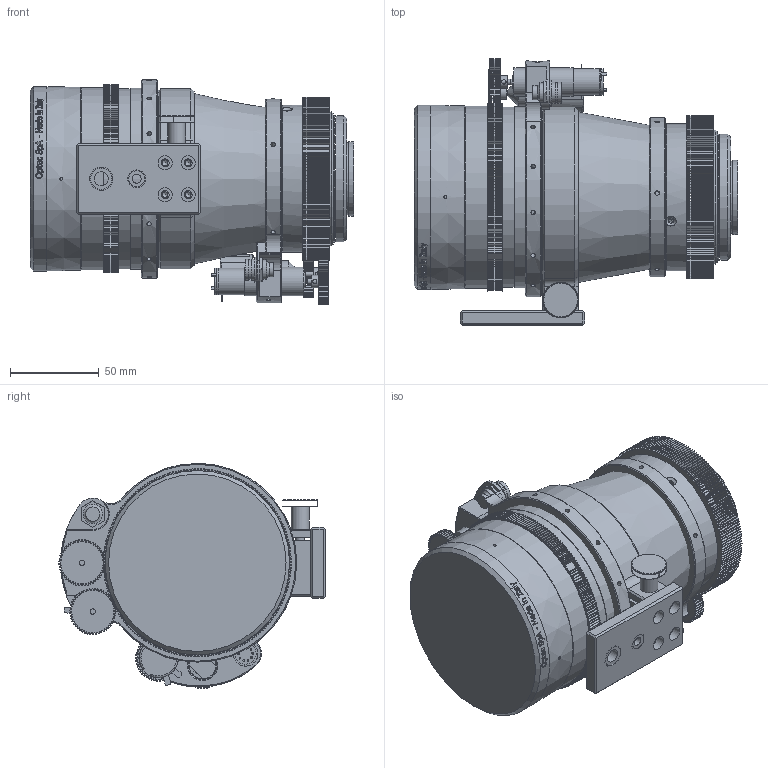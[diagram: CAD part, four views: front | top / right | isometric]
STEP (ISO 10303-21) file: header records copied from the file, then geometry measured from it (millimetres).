
FILE_DESCRIPTION((''),'2;1');
FILE_NAME('\\Optecserver3\doc produ\Meccaniche\STP\A_2011\C1116\C1116_000\C1116_079_000.stp','2014-05-23T09:07:51',('tbosotti'),(''),'Autodesk Inventor 2010','Autodesk Inventor 2010','');
FILE_SCHEMA(('AUTOMOTIVE_DESIGN { 1 0 10303 214 1 1 1 1 }'));
Length unit declared in the file: millimetre
Products named in the file (2): C1116_079_000.iam (Livello di dettaglio sostituto1); C1116_079_000_Sostituto_1
Assembly tree (1 placements, depth 2):
  C1116_079_000.iam (Livello di dettaglio sostituto1)
    C1116_079_000_Sostituto_1
Bounding box: 182.32 x 149.99 x 126.91 mm (x, y, z)
Surface area: 220535.5 mm2 (no closed solid volume)
Topology: 0 solids, 107 shells, 1262 faces, 8825 edges, 6811 vertices
Faces by surface type: cylinder 656, plane 477, bspline 75, cone 48, torus 6
Full cylindrical faces by diameter (mm): 3 x6, 3.2 x1, 4.978 x1, 5 x1, 6.32 x2, 7 x6, 7.798 x1, 8 x2, 8.23 x1, 9.38 x2, 10 x1, 10.26 x1, 11 x2, 11.1 x2, 11.9 x4, 14 x2, 15 x8, 16 x4, 22.2 x2, 40.7 x1, 42 x1, 61.5 x1, 70 x1, 71 x1, 76 x1, 80 x1, 83 x1, 96 x1, 98 x1, 102 x2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
Entity records: 110874 total; most frequent: CARTESIAN_POINT 45087, DIRECTION 14872, ORIENTED_EDGE 10835, EDGE_CURVE 8602, VERTEX_POINT 6738, AXIS2_PLACEMENT_3D 5925, CIRCLE 4729, VECTOR 3022
